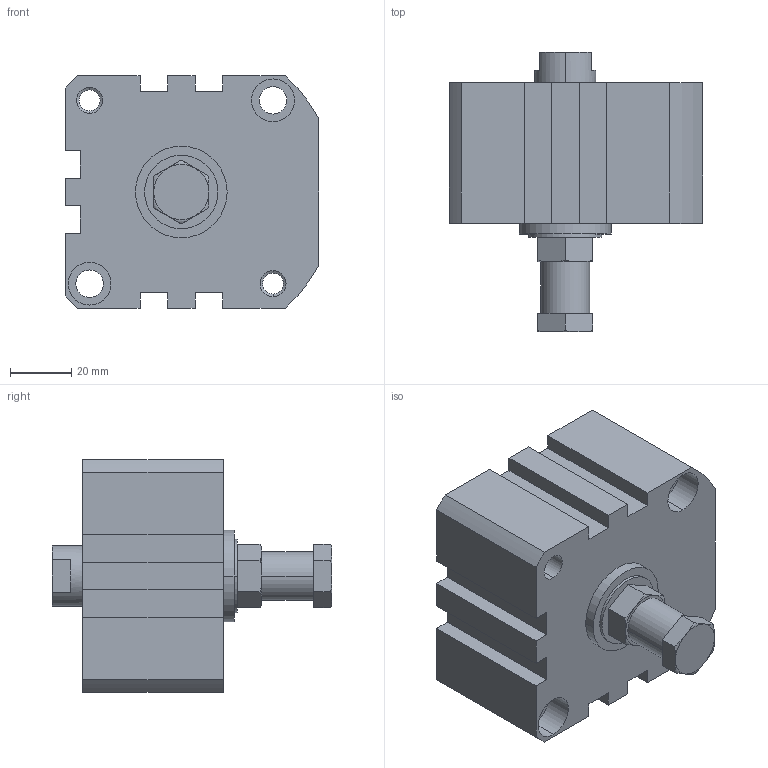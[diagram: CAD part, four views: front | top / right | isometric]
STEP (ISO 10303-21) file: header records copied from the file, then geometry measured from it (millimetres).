
FILE_DESCRIPTION (( 'STEP AP203' ), '1' );
FILE_NAME ('XCA2-63-10.STEP', '2016-05-24T02:31:50', ( '' ), ( '' ), 'SwSTEP 2.0', 'SolidWorks 2014', '' );
FILE_SCHEMA (( 'CONFIG_CONTROL_DESIGN' ));
Length unit declared in the file: millimetre
Products named in the file (3): X#A2-63-H; XC#2-63-10; XCA2-63-10
Assembly tree (2 placements, depth 2):
  XCA2-63-10
    XC#2-63-10
    X#A2-63-H
Bounding box: 83 x 91.5 x 76 mm (x, y, z)
Volume: 261513.6 mm3; surface area: 40450.2 mm2
Topology: 2 solids, 2 shells, 148 faces, 357 edges, 225 vertices
Faces by surface type: plane 64, cylinder 54, cone 18, torus 12
Entity records: 4782 total; most frequent: CARTESIAN_POINT 961, DIRECTION 771, ORIENTED_EDGE 702, EDGE_CURVE 351, AXIS2_PLACEMENT_3D 291, VERTEX_POINT 225, LINE 189, VECTOR 189
